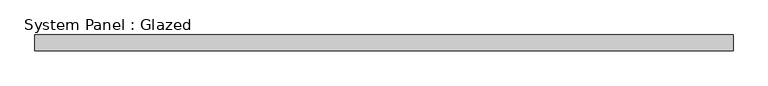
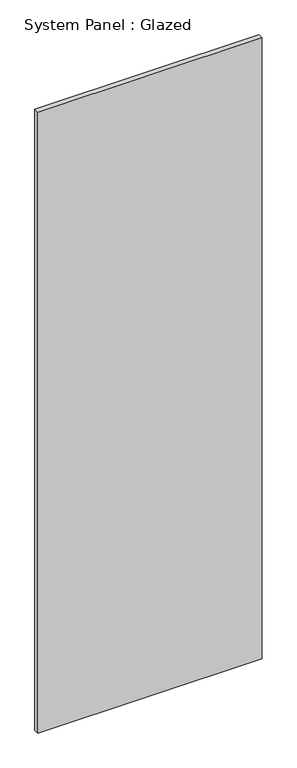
"""IFC4 building model written with IfcOpenShell, lengths in millimetres: plate geometry, System Panel : Glazed."""

from ifc_helpers import new_model, si_unit, origin, origin_with_axes, place, context, project, spatial, polyline, outline, extrude, source, transform, mapped, element, save


def system_panel_glazed_d9a1cec6(model_context):
    return source(origin(), model_context, "Body", "SweptSolid", [
        extrude(outline(polyline([(567.2666667, -44.45), (-567.2666667, -44.45), (-567.2666667, -19.05), (567.2666667, -19.05), (567.2666667, -44.45)])), origin_with_axes(), (0.0, 0.0, 1.0), 3318.9333333),
    ])


if __name__ == "__main__":
    model = new_model("IFC4")
    model_context = context("Model", 3, world=origin())
    ifc_project = project(units=[si_unit("LENGTHUNIT", "METRE", prefix="MILLI")], contexts=[model_context])
    site = spatial("IfcSite", under=ifc_project)
    building = spatial("IfcBuilding", under=site)
    placement = place(None, origin())
    system_panel_glazed_shape = system_panel_glazed_d9a1cec6(model_context)
    element("IfcPlate", 1, ObjectType="System Panel : Glazed", at=placement, inside=building, context=model_context, shape_type="MappedRepresentation", body=[
        mapped(system_panel_glazed_shape, transform((0.0, 0.0, 0.0), x_axis=(1.0, 0.0, 0.0), y_axis=(0.0, 1.0, 0.0), z_axis=(0.0, 0.0, 1.0))),
    ])
    save(model, "model.ifc")
